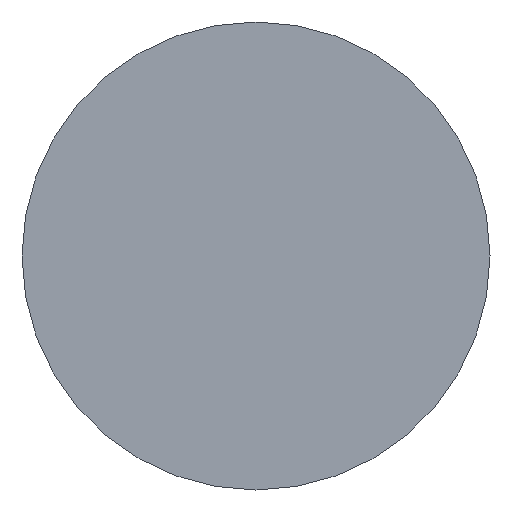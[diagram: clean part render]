
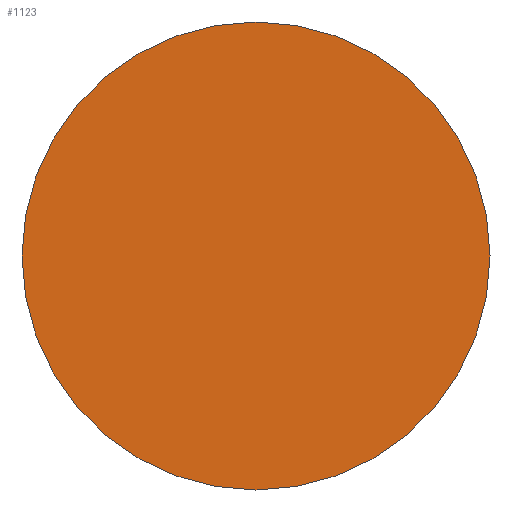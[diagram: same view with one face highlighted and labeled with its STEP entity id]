
A CAD part, front view. The second image highlights one B-rep face of the part: STEP entity #1123.
In plain terms, the highlighted planar face has unit normal (0, -1, 0).
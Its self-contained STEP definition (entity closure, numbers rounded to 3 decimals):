
#75 = PLANE ( 'NONE',  #342 ) ;
#342 = AXIS2_PLACEMENT_3D ( 'NONE', #2454, #1975, #3914 ) ;
#377 = CIRCLE ( 'NONE', #3314, 302.5 ) ;
#417 = EDGE_CURVE ( 'NONE', #6268, #2070, #377, .T. ) ;
#518 = FACE_OUTER_BOUND ( 'NONE', #3644, .T. ) ;
#694 = ORIENTED_EDGE ( 'NONE', *, *, #417, .F. ) ;
#804 = CARTESIAN_POINT ( 'NONE',  ( 0., -4., 0. ) ) ;
#1123 = ADVANCED_FACE ( 'NONE', ( #518 ), #75, .F. ) ;
#1249 = ORIENTED_EDGE ( 'NONE', *, *, #1535, .F. ) ;
#1453 = DIRECTION ( 'NONE',  ( 0., 0., 1. ) ) ;
#1535 = EDGE_CURVE ( 'NONE', #2070, #6268, #2812, .T. ) ;
#1733 = CARTESIAN_POINT ( 'NONE',  ( 0., -4., -302.5 ) ) ;
#1975 = DIRECTION ( 'NONE',  ( 0., 1., 0. ) ) ;
#1999 = CARTESIAN_POINT ( 'NONE',  ( 0., -4., 302.5 ) ) ;
#2070 = VERTEX_POINT ( 'NONE', #1999 ) ;
#2454 = CARTESIAN_POINT ( 'NONE',  ( 0., -4., 0. ) ) ;
#2812 = CIRCLE ( 'NONE', #4641, 302.5 ) ;
#2946 = CARTESIAN_POINT ( 'NONE',  ( 0., -4., 0. ) ) ;
#3314 = AXIS2_PLACEMENT_3D ( 'NONE', #804, #4675, #5680 ) ;
#3421 = DIRECTION ( 'NONE',  ( 0., 1., 0. ) ) ;
#3644 = EDGE_LOOP ( 'NONE', ( #694, #1249 ) ) ;
#3914 = DIRECTION ( 'NONE',  ( 1., 0., 0. ) ) ;
#4641 = AXIS2_PLACEMENT_3D ( 'NONE', #2946, #3421, #1453 ) ;
#4675 = DIRECTION ( 'NONE',  ( 0., 1., 0. ) ) ;
#5680 = DIRECTION ( 'NONE',  ( 0., 0., 1. ) ) ;
#6268 = VERTEX_POINT ( 'NONE', #1733 ) ;
